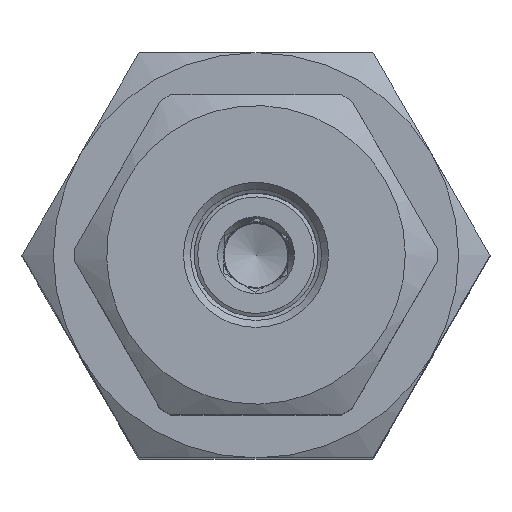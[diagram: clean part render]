
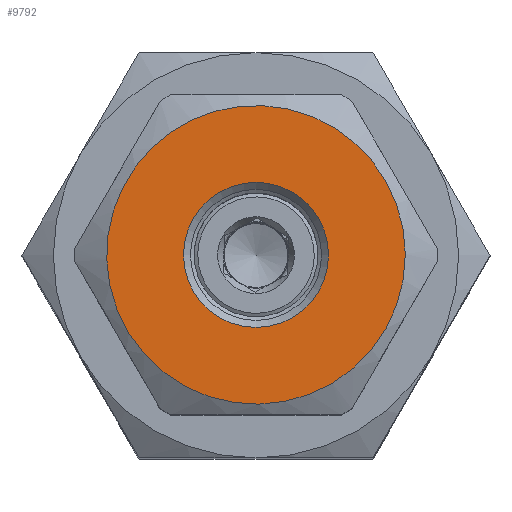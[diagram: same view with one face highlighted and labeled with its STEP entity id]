
A CAD part, top view. The second image highlights one B-rep face of the part: STEP entity #9792.
In plain terms, the highlighted planar face has unit normal (0, 0, 1) as drawn and (-1, 0, 0) by its records, which use the part's own axes.
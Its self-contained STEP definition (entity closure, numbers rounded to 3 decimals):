
#940 = CARTESIAN_POINT ( 'NONE',  ( 0., 0., 14. ) ) ;
#1914 = VERTEX_POINT ( 'NONE', #5125 ) ;
#2572 = EDGE_LOOP ( 'NONE', ( #15487 ) ) ;
#3038 = DIRECTION ( 'NONE',  ( 0., 0., 1. ) ) ;
#3219 = CARTESIAN_POINT ( 'NONE',  ( 0., 0., 0. ) ) ;
#3322 = PLANE ( 'NONE',  #7616 ) ;
#4918 = DIRECTION ( 'NONE',  ( 1., 0., 0. ) ) ;
#5125 = CARTESIAN_POINT ( 'NONE',  ( 0., 0., 6.8 ) ) ;
#5866 = EDGE_CURVE ( 'NONE', #1914, #1914, #16407, .T. ) ;
#6143 = EDGE_CURVE ( 'NONE', #9127, #9127, #19808, .T. ) ;
#7616 = AXIS2_PLACEMENT_3D ( 'NONE', #3219, #19124, #19240 ) ;
#7851 = AXIS2_PLACEMENT_3D ( 'NONE', #14358, #16298, #3038 ) ;
#9127 = VERTEX_POINT ( 'NONE', #940 ) ;
#9792 = ADVANCED_FACE ( 'NONE', ( #14318, #13036 ), #3322, .T. ) ;
#11718 = EDGE_LOOP ( 'NONE', ( #14523 ) ) ;
#13036 = FACE_OUTER_BOUND ( 'NONE', #11718, .T. ) ;
#14318 = FACE_BOUND ( 'NONE', #2572, .T. ) ;
#14358 = CARTESIAN_POINT ( 'NONE',  ( 0., 0., 0. ) ) ;
#14523 = ORIENTED_EDGE ( 'NONE', *, *, #6143, .T. ) ;
#15487 = ORIENTED_EDGE ( 'NONE', *, *, #5866, .T. ) ;
#16298 = DIRECTION ( 'NONE',  ( -1., 0., 0. ) ) ;
#16344 = DIRECTION ( 'NONE',  ( 0., 0., 1. ) ) ;
#16407 = CIRCLE ( 'NONE', #18119, 6.8 ) ;
#18119 = AXIS2_PLACEMENT_3D ( 'NONE', #19547, #4918, #16344 ) ;
#19124 = DIRECTION ( 'NONE',  ( -1., 0., 0. ) ) ;
#19240 = DIRECTION ( 'NONE',  ( 0., 0., 1. ) ) ;
#19547 = CARTESIAN_POINT ( 'NONE',  ( 0., 0., 0. ) ) ;
#19808 = CIRCLE ( 'NONE', #7851, 14. ) ;
